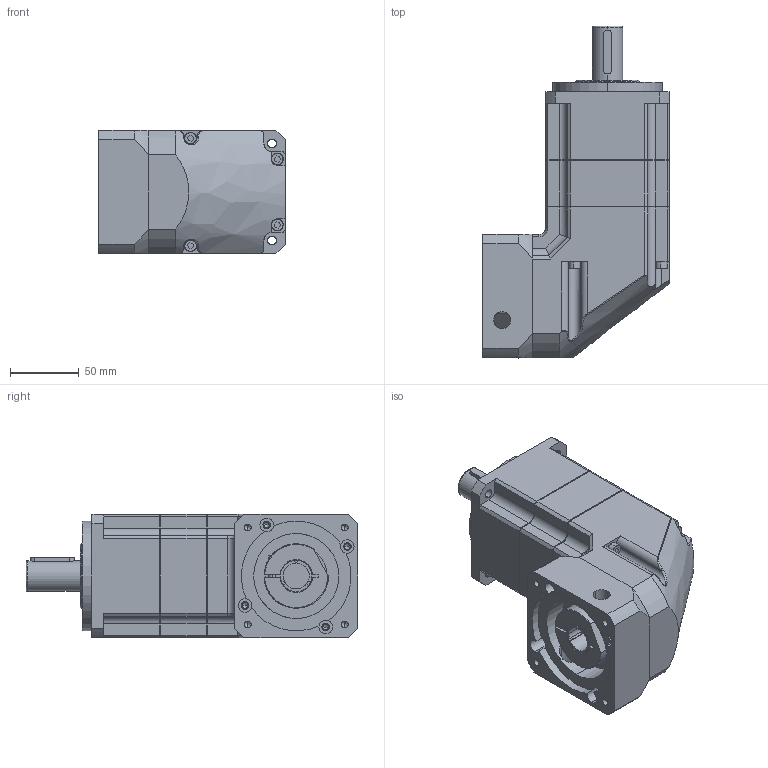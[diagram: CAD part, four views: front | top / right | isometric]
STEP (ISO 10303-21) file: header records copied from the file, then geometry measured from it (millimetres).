
FILE_DESCRIPTION (( 'STEP AP203' ), '1' );
FILE_NAME ('PAMG090-L2-19-80-100.STEP', '2024-10-25T06:17:41', ( 'Windows User' ), ( 'P R C' ), 'SwSTEP 2.0', 'SolidWorks 2016', '' );
FILE_SCHEMA (( 'CONFIG_CONTROL_DESIGN' ));
Length unit declared in the file: millimetre
Products named in the file (10): 内六角圆柱头螺钉M5×20; A倰す瑩 6x6x32; 油封範本 TC 72x50x8_TC-34.9-55-7; GB／T70．1-2000内六角圆柱头螺钉M5×70_M5×85; PAMG90二级齿圈; PAMG090-L2-19-80-100; PAMG90奻裔啣; PAMG90-SJH01_3.傖こ; PAMG90-眊极_桽倰2; PAMG90-LJ-80-M6-100_珨极宒 梓袧
Assembly tree (13 placements, depth 2):
  PAMG090-L2-19-80-100
    PAMG90二级齿圈
    PAMG90奻裔啣
    PAMG90-SJH01_3.傖こ
    PAMG90-眊极_桽倰2
    PAMG90-LJ-80-M6-100_珨极宒 梓袧
    内六角圆柱头螺钉M5×20
    A倰す瑩 6x6x32
    油封範本 TC 72x50x8_TC-34.9-55-7
    GB／T70．1-2000内六角圆柱头螺钉M5×70_M5×85  x5
Bounding box: 136 x 242 x 90 mm (x, y, z)
Volume: 1539866 mm3; surface area: 193537.8 mm2
Topology: 13 solids, 13 shells, 1176 faces, 2982 edges, 1916 vertices
Faces by surface type: plane 607, bspline 255, cylinder 226, cone 88
Entity records: 45445 total; most frequent: CARTESIAN_POINT 19038, ORIENTED_EDGE 5576, DIRECTION 4531, EDGE_CURVE 2788, VERTEX_POINT 1812, VECTOR 1761, LINE 1761, AXIS2_PLACEMENT_3D 1385
